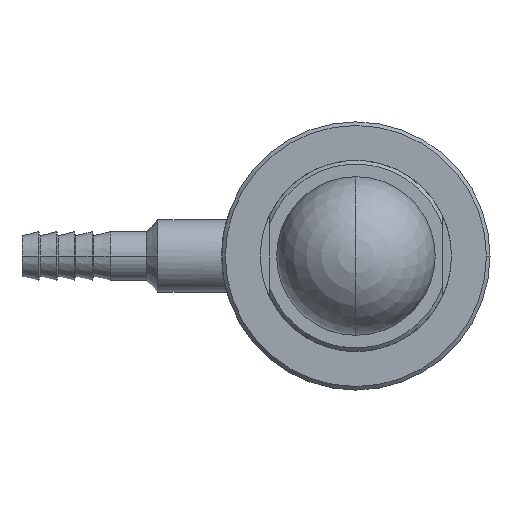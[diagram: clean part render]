
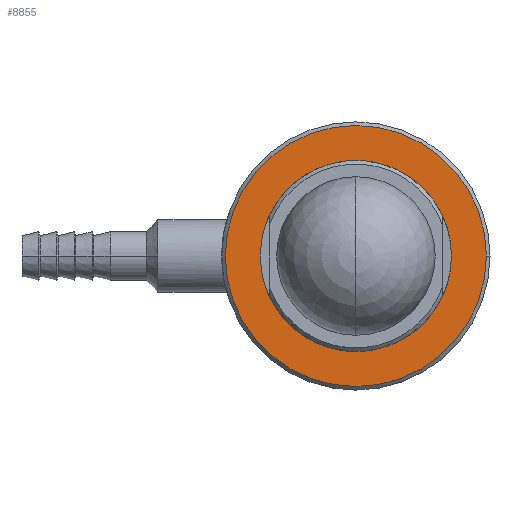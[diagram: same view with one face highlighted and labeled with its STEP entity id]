
A CAD part, front view. The second image highlights one B-rep face of the part: STEP entity #8855.
In plain terms, the highlighted planar face has unit normal (0, -1, 0).
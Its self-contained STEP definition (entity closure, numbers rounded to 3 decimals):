
#7214=CARTESIAN_POINT('',(0.,-2.5,0.));
#7215=DIRECTION('',(0.,1.,0.));
#7216=DIRECTION('',(1.,0.,0.));
#7217=AXIS2_PLACEMENT_3D('',#7214,#7215,#7216);
#7222=CARTESIAN_POINT('',(0.,-2.5,0.));
#7223=DIRECTION('',(0.,-1.,0.));
#7224=DIRECTION('',(1.,0.,0.));
#7225=AXIS2_PLACEMENT_3D('',#7222,#7223,#7224);
#7230=CARTESIAN_POINT('',(0.,-2.5,0.));
#7231=DIRECTION('',(0.,1.,0.));
#7232=DIRECTION('',(1.,0.,0.));
#7233=AXIS2_PLACEMENT_3D('',#7230,#7231,#7232);
#7238=CARTESIAN_POINT('',(0.,-2.5,0.));
#7239=DIRECTION('',(0.,1.,0.));
#7240=DIRECTION('',(-1.,0.,0.));
#7241=AXIS2_PLACEMENT_3D('',#7238,#7239,#7240);
#7639=CARTESIAN_POINT('',(13.25,-2.5,0.));
#7640=CARTESIAN_POINT('',(-13.25,-2.5,0.));
#7641=VERTEX_POINT('',#7639);
#7642=VERTEX_POINT('',#7640);
#7667=CARTESIAN_POINT('',(18.1,-2.5,0.));
#7668=CARTESIAN_POINT('',(-18.1,-2.5,0.));
#7669=VERTEX_POINT('',#7667);
#7670=VERTEX_POINT('',#7668);
#8840=CARTESIAN_POINT('',(0.,-2.5,0.));
#8841=DIRECTION('',(0.,1.,0.));
#8842=DIRECTION('',(1.,0.,0.));
#8843=AXIS2_PLACEMENT_3D('',#8840,#8841,#8842);
#8844=PLANE('',#8843);
#8845=ORIENTED_EDGE('',*,*,#8613,.T.);
#8846=ORIENTED_EDGE('',*,*,#8635,.T.);
#8847=EDGE_LOOP('',(#8845,#8846));
#8848=FACE_OUTER_BOUND('',#8847,.F.);
#8850=ORIENTED_EDGE('',*,*,#8849,.F.);
#8852=ORIENTED_EDGE('',*,*,#8851,.T.);
#8853=EDGE_LOOP('',(#8850,#8852));
#8854=FACE_BOUND('',#8853,.F.);
#7218=CIRCLE('',#7217,13.25);
#7226=CIRCLE('',#7225,13.25);
#7234=CIRCLE('',#7233,18.1);
#7242=CIRCLE('',#7241,18.1);
#8613=EDGE_CURVE('',#7669,#7670,#7234,.T.);
#8635=EDGE_CURVE('',#7670,#7669,#7242,.T.);
#8849=EDGE_CURVE('',#7641,#7642,#7218,.T.);
#8851=EDGE_CURVE('',#7641,#7642,#7226,.T.);
#8855=ADVANCED_FACE('',(#8848,#8854),#8844,.F.);
